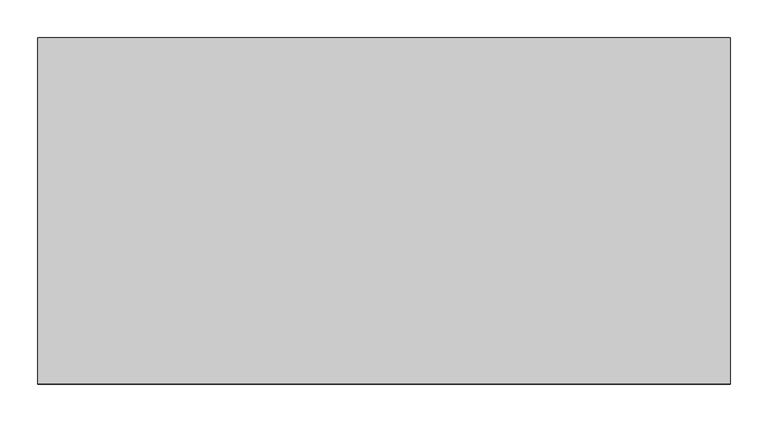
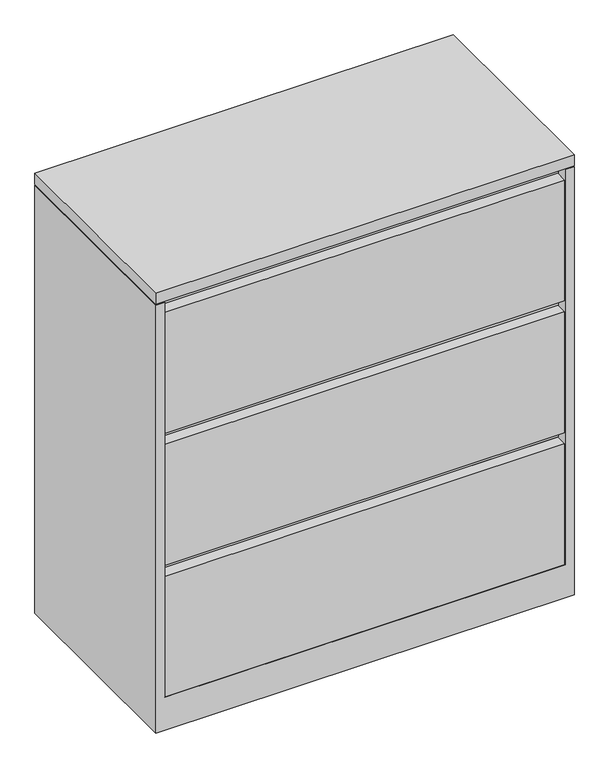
"""IFC4 building model written with IfcOpenShell, lengths in millimetres: furniture geometry, Steelcase - 900 Series - Storage - Lateral File With Drawer - 40H-52H - Flush Steel : 40H x 36W."""

from ifc_helpers import new_model, si_unit, frame, origin, place, context, project, spatial, polyline, outline, extrude, faceted_brep, source, transform, mapped, element, save


def furniture_76482f5b(model_context):
    return source(origin(), model_context, "Body", "SolidModel", [
        extrude(outline(polyline([(914.4, 0.0), (914.4, -457.2), (0.0, -457.2), (0.0, 0.0), (914.4, 0.0)])), frame((0.0, 0.0, 990.5999516), z_axis=(0.0, 0.0, 1.0), x_axis=(1.0, 0.0, 0.0)), (0.0, 0.0, 1.0), 25.4),
        faceted_brep([(895.0960184, -25.2721219, 989.076), (895.0960184, -457.2, 989.076), (914.4, -457.2, 989.076), (914.4, 0.0, 989.076), (0.0, 0.0, 989.076), (0.0, -457.2, 989.076), (19.3039998, -457.2, 989.076), (19.3039998, -25.2721219, 989.076), (0.0, -457.2, 0.0), (0.0, 0.0, 0.0), (914.4, 0.0, 0.0), (914.4, -457.2, 0.0), (895.0960184, -25.2721219, 381.0), (895.0960184, -431.800255, 381.0), (895.0960184, -431.800255, 355.6), (895.0960184, -25.2721219, 355.6), (895.0960184, -25.2721219, 76.2), (895.0960184, -457.2, 76.2), (19.3039998, -457.2, 76.2), (19.3039998, -25.2721219, 76.2), (19.3039998, -25.2721219, 355.6), (19.3039998, -431.800255, 355.6), (19.3039998, -431.800255, 381.0), (19.3039998, -25.2721219, 381.0)], [[[0, 1, 2, 3, 4, 5, 6, 7]], [[8, 9, 10, 11]], [[1, 0, 12, 13, 14, 15, 16, 17]], [[2, 1, 17, 18, 6, 5, 8, 11]], [[3, 2, 11, 10]], [[4, 3, 10, 9]], [[5, 4, 9, 8]], [[7, 6, 18, 19, 20, 21, 22, 23]], [[0, 7, 23, 12]], [[16, 15, 20, 19]], [[18, 17, 16, 19]], [[22, 13, 12, 23]], [[13, 22, 21, 14]], [[14, 21, 20, 15]]]),
        extrude(outline(polyline([(895.0960184, -25.2721219), (895.0960184, -431.800255), (19.3039998, -431.800255), (19.3039998, -25.2721219), (895.0960184, -25.2721219)])), frame((0.0, 0.0, 660.4), z_axis=(0.0, 0.0, 1.0), x_axis=(1.0, 0.0, 0.0)), (0.0, 0.0, 1.0), 25.4),
        extrude(outline(polyline([(893.5722015, -457.2), (20.8289612, -457.2), (20.8289612, -431.800255), (893.5722015, -431.800255), (893.5722015, -457.2)])), frame((0.0, 0.0, 685.8), z_axis=(0.0, 0.0, 1.0), x_axis=(1.0, 0.0, 0.0)), (0.0, 0.0, 1.0), 279.4),
        extrude(outline(polyline([(895.0960184, -25.2721219), (895.0960184, -431.800255), (19.3039998, -431.800255), (19.3039998, -25.2721219), (895.0960184, -25.2721219)])), frame((0.0, 0.0, 965.2), z_axis=(0.0, 0.0, 1.0), x_axis=(1.0, 0.0, 0.0)), (0.0, 0.0, 1.0), 25.4),
        extrude(outline(polyline([(895.0960184, -25.2721219), (895.0960184, -431.800255), (20.8289612, -431.800255), (20.8289612, -25.2721219), (895.0960184, -25.2721219)])), frame((0.0, 0.0, 989.076), z_axis=(0.0, 0.0, 1.0), x_axis=(1.0, 0.0, 0.0)), (0.0, 0.0, 1.0), 1.5239516),
        extrude(outline(polyline([(893.5722015, -457.2), (20.8289612, -457.2), (20.8289612, -431.800255), (893.5722015, -431.800255), (893.5722015, -457.2)])), frame((0.0, 0.0, 76.2), z_axis=(0.0, 0.0, 1.0), x_axis=(1.0, 0.0, 0.0)), (0.0, 0.0, 1.0), 279.4),
        extrude(outline(polyline([(893.5722015, -457.2), (20.8289612, -457.2), (20.8289612, -431.800255), (893.5722015, -431.800255), (893.5722015, -457.2)])), frame((0.0, 0.0, 381.0), z_axis=(0.0, 0.0, 1.0), x_axis=(1.0, 0.0, 0.0)), (0.0, 0.0, 1.0), 279.4),
    ])


if __name__ == "__main__":
    model = new_model("IFC4")
    model_context = context("Model", 3, world=origin())
    ifc_project = project(units=[si_unit("LENGTHUNIT", "METRE", prefix="MILLI")], contexts=[model_context])
    site = spatial("IfcSite", under=ifc_project)
    building = spatial("IfcBuilding", under=site)
    placement = place(None, origin())
    furniture_shape = furniture_76482f5b(model_context)
    element("IfcFurniture", 1, ObjectType="Steelcase - 900 Series - Storage - Lateral File With Drawer - 40H-52H - Flush Steel : 40H x 36W", at=placement, inside=building, context=model_context, shape_type="MappedRepresentation", body=[
        mapped(furniture_shape, transform((0.0, 0.0, 0.0), x_axis=(1.0, 0.0, 0.0), y_axis=(0.0, 1.0, 0.0), z_axis=(0.0, 0.0, 1.0))),
    ])
    save(model, "model.ifc")
